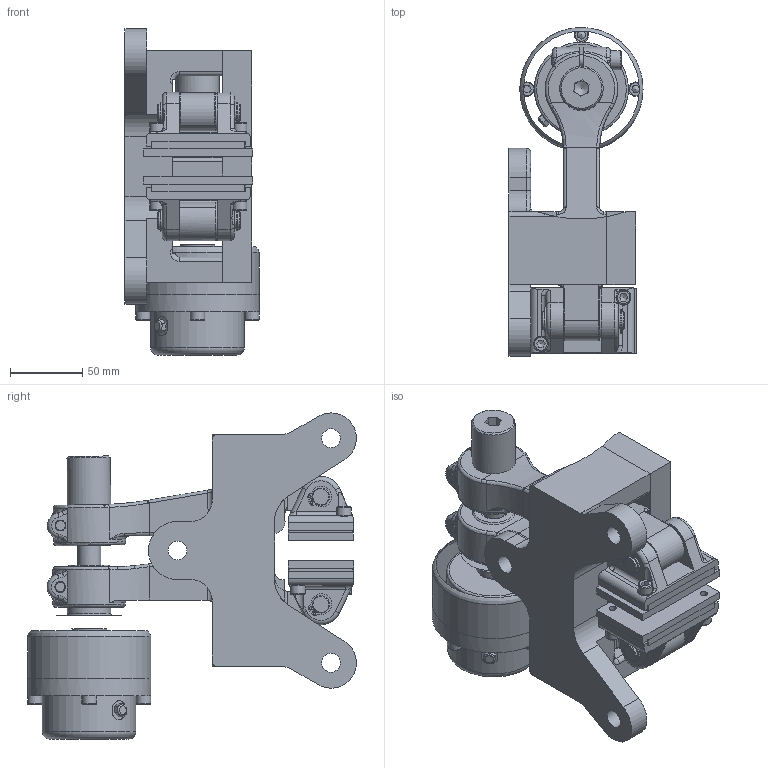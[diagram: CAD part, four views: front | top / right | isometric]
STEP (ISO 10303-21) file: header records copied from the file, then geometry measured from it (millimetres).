
FILE_DESCRIPTION(/* description */ ('','CAx-IF Rec.Pracs.---Representation and Presentation of Product Manufacturing Information (PMI)---4.0---2014-10-13'),/* implementation_level */ '2;1');
FILE_NAME(/* name */ 'X:\INVENTOR\DISEGNI\19_Pinze\STEP x Sito\PNEUM-NEGATIVE\19_36_021_03 PPF-N021_12,7.stp',/* time_stamp */ '2018-02-21T07:32:06+01:00',/* author */ ('stefano'),/* organization */ (''),/* preprocessor_version */ 'ST-DEVELOPER v17',/* originating_system */ 'Autodesk Inventor 2018',/* authorisation */ '');
FILE_SCHEMA (('AP242_MANAGED_MODEL_BASED_3D_ENGINEERING_MIM_LF { 1 0 10303 442 1 1 4 }'));
Length unit declared in the file: millimetre
Products named in the file (1): 19_36_021_03 PPF-N021_12,7_Substitute_2
Bounding box: 92.5 x 226.99 x 225.15 mm (x, y, z)
Volume: 1353981.5 mm3; surface area: 239109.8 mm2
Topology: 5 solids, 5 shells, 981 faces, 2736 edges, 1806 vertices
Faces by surface type: plane 493, cylinder 289, cone 70, torus 69, bspline 60
Full cylindrical faces by diameter (mm): 1.7 x14, 3 x1, 3.5 x4, 4.134 x1, 4.917 x9, 6 x1, 6.647 x1, 6.917 x1, 7 x1, 7.25 x2, 8 x2, 8.5 x3, 9.75 x8, 10 x15, 10.5 x2, 11.445 x1, 11.5 x4, 12 x11, 13 x5, 13.3 x6, 13.5 x2, 14 x12, 16 x6, 16.5 x2, 16.6 x1, 17 x1, 19 x1, 20.5 x1, 22 x1, 22.6 x1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
Entity records: 38130 total; most frequent: CARTESIAN_POINT 11552, DIRECTION 5416, ORIENTED_EDGE 5412, EDGE_CURVE 2706, AXIS2_PLACEMENT_3D 2084, VERTEX_POINT 1806, LINE 1248, VECTOR 1248
